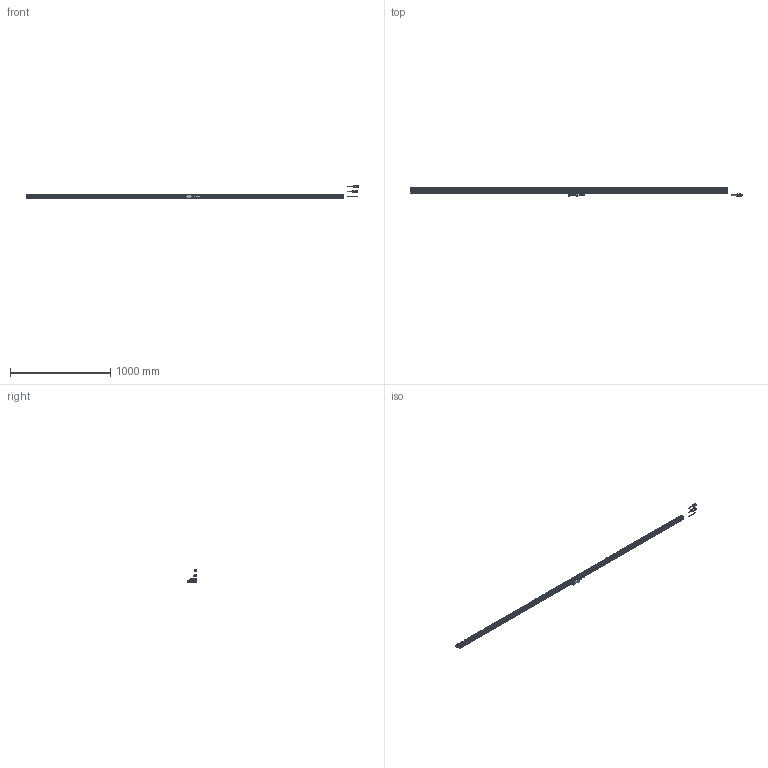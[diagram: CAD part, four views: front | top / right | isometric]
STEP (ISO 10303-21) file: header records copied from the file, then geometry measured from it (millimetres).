
FILE_DESCRIPTION(('Creo Elements/Direct Modeling STEP Export'),'2;1');
FILE_NAME('AT402E-3040.stp','2018-02-21T13:31:27',(''),(''),'Creo Elements/Direct Modeling STEP processor for AP214 (Solid Model)','Creo Elements/Direct Modeling 18.1B 29-Sep-2012 (C) Parametric Technology GmbH','');
FILE_SCHEMA(('AUTOMOTIVE_DESIGN { 1 0 10303 214 1 1 1 1 }'));
Length unit declared in the file: millimetre
Products named in the file (6): Scale_3040; Connector_typeC; Connector_typeA; Detector_Head; Connector_typeB; AT402E-3040
Assembly tree (5 placements, depth 2):
  AT402E-3040
    Connector_typeB
    Detector_Head
    Connector_typeA
    Connector_typeC
    Scale_3040
Bounding box: 3309.57 x 90 x 130.25 mm (x, y, z)
Volume: 5184010.9 mm3; surface area: 657982.5 mm2
Topology: 5 solids, 5 shells, 1899 faces, 5821 edges, 3920 vertices
Faces by surface type: plane 1064, cylinder 701, torus 50, bspline 46, cone 26, sphere 12
Entity records: 71137 total; most frequent: CARTESIAN_POINT 19152, ORIENTED_EDGE 11642, DIRECTION 10241, EDGE_CURVE 5821, VERTEX_POINT 3920, VECTOR 3443, LINE 3443, AXIS2_PLACEMENT_3D 3399
